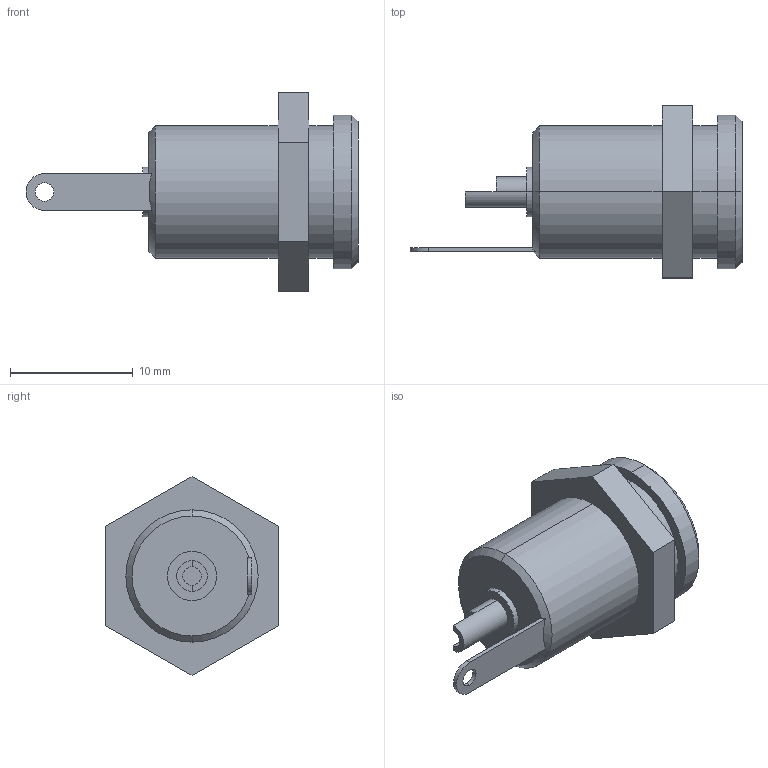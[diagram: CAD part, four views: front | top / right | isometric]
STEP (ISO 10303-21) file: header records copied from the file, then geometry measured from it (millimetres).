
FILE_DESCRIPTION (( 'STEP AP214' ), '1' );
FILE_NAME ('12v_socket.STEP', '2015-02-26T22:53:51', ( '' ), ( '' ), '', '', '' );
FILE_SCHEMA (( '' ));
Length unit declared in the file: millimetre
Products named in the file (1): 12v_socket
Bounding box: 27 x 14 x 16.17 mm (x, y, z)
Volume: 1617.9 mm3; surface area: 1379.2 mm2
Topology: 1 solids, 2 shells, 59 faces, 129 edges, 82 vertices
Faces by surface type: plane 26, cylinder 25, cone 6, torus 2
Entity records: 1782 total; most frequent: DIRECTION 307, CARTESIAN_POINT 292, ORIENTED_EDGE 258, EDGE_CURVE 129, AXIS2_PLACEMENT_3D 121, VERTEX_POINT 82, EDGE_LOOP 71, VECTOR 65
